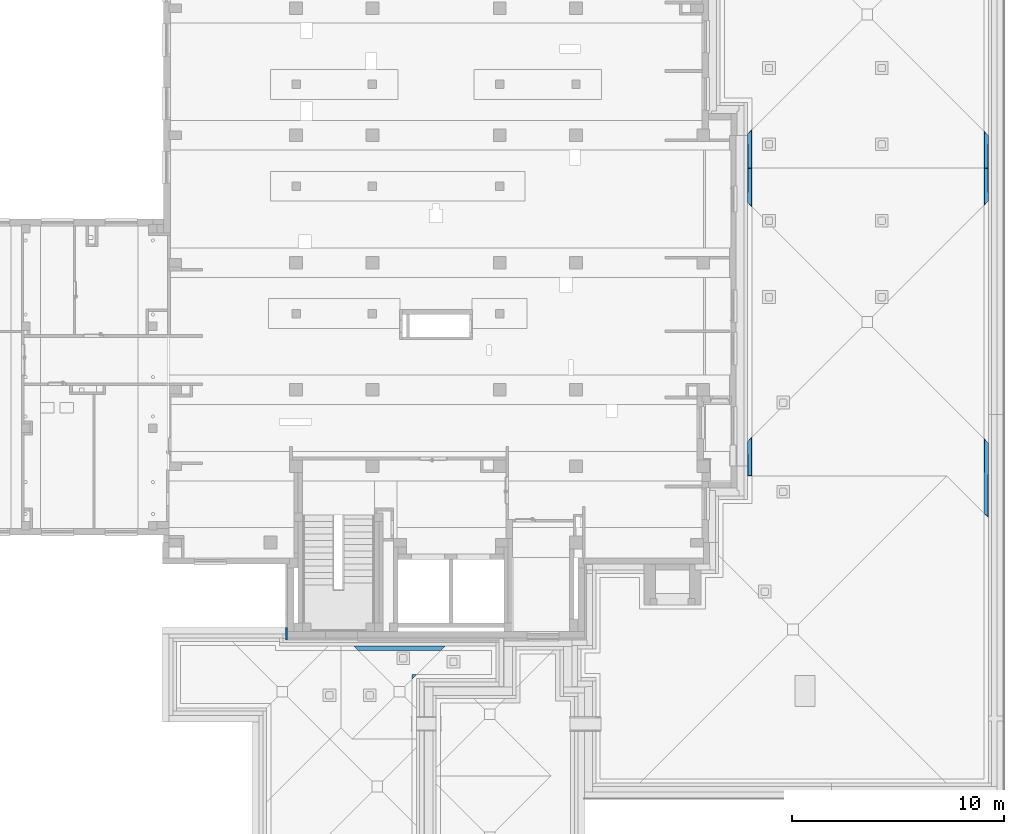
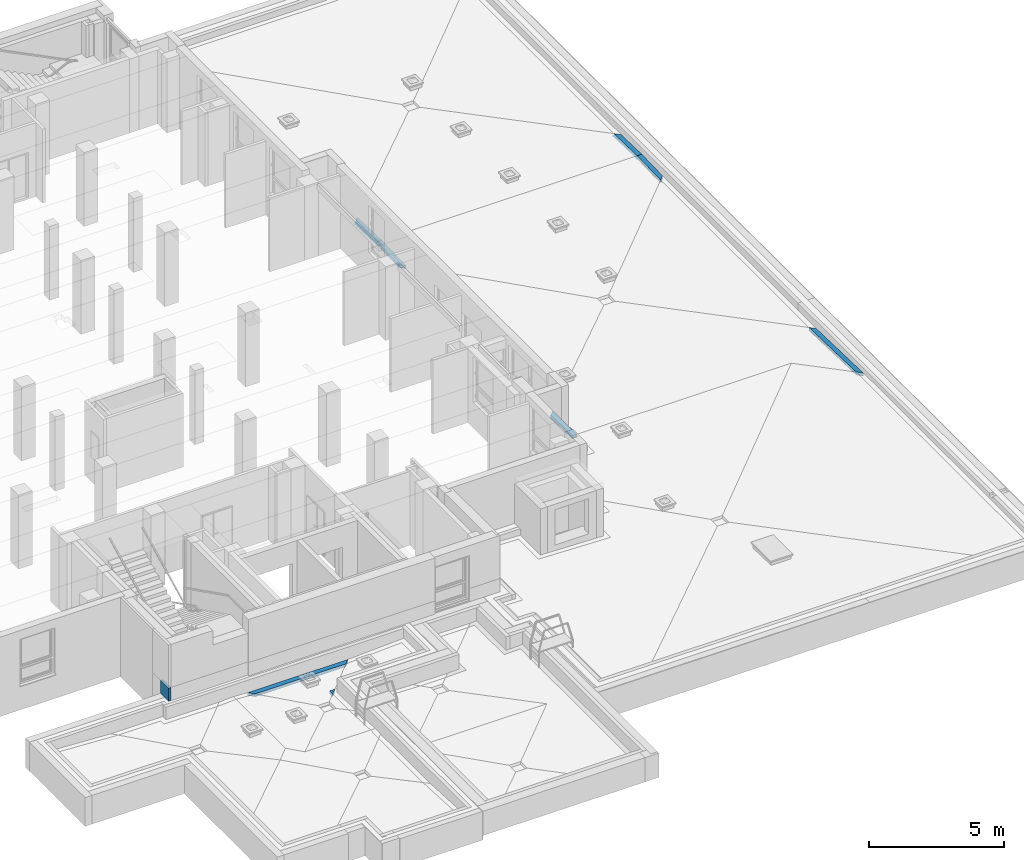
# One storey, part 32 of 50: 8 building element parts, 1 wall, 6 elements without a shape of their own.
"""IFC4 building model written with IfcOpenShell, lengths in metres."""

import ifcopenshell
import ifcopenshell.guid

model = None  # the IFC model being written
_history = None  # IfcOwnerHistory: only IFC2X3 demands one
_inside = {}  # id of a spatial element -> (the spatial element, [elements in it])
_under = {}  # id of a project, library or spatial element -> (it, [spatial elements below it])
_declared = {}  # id of a project -> (the project, [libraries it declares])
_typed = {}  # id of a type object -> (the type object, [elements of that type])
_made_of = {}  # id of a material, layer set ... -> (it, [elements and type objects made of it])


def new_model(schema):
    """Start an empty IFC model of exactly this schema.

    Asked for "IFC4X3", IfcOpenShell would pick the latest addendum, in which some entities
    have other attributes; the version numbers below select the first issue.
    IFC2X3 requires an IfcOwnerHistory on every rooted entity: one is made here for all.
    """
    global model, _history
    if schema == "IFC4X3":
        model = ifcopenshell.file(schema_version=(4, 3, 0, 0))
    else:
        model = ifcopenshell.file(schema=schema)
    _inside.clear()
    _under.clear()
    _declared.clear()
    _typed.clear()
    _made_of.clear()
    _history = None
    if model.schema == "IFC2X3":
        org = make("IfcOrganization", Name="unknown")
        user = make(
            "IfcPersonAndOrganization",
            ThePerson=make("IfcPerson", FamilyName="unknown"),
            TheOrganization=org,
        )
        app = make(
            "IfcApplication",
            ApplicationDeveloper=org,
            Version="unknown",
            ApplicationFullName="unknown",
            ApplicationIdentifier="unknown",
        )
        _history = make(
            "IfcOwnerHistory",
            OwningUser=user,
            OwningApplication=app,
            ChangeAction="ADDED",
            CreationDate=0,
        )
    return model


def make(cls, **values):
    """One entity of the class cls with the attributes given. An attribute that is None is left unset."""
    return model.create_entity(
        cls, **{name: value for name, value in values.items() if value is not None}
    )


def entity(cls, *values):
    """Any entity or typed value of the class cls, its attributes in the order of the schema. None: left unset."""
    e = model.create_entity(cls)
    for i, value in enumerate(values):
        if value is not None:
            e[i] = value
    return e


def rooted(cls, **values):
    """An entity with a GlobalId (a new one), such as an element, a storey or a relation."""
    return make(cls, GlobalId=ifcopenshell.guid.new(), OwnerHistory=_history, **values)


def si_unit(unit_type, name, prefix=None):
    """IfcSIUnit, for example si_unit("LENGTHUNIT", "METRE", prefix="MILLI")."""
    return make("IfcSIUnit", UnitType=unit_type, Prefix=prefix, Name=name)


def converted_unit(unit_type, name, factor, base, dimensions=None, offset=None):
    """IfcConversionBasedUnit, such as the inch: factor (a typed value) times the base unit."""
    return make(
        "IfcConversionBasedUnit"
        if offset is None
        else "IfcConversionBasedUnitWithOffset",
        ConversionOffset=offset,
        Dimensions=None
        if dimensions is None
        else entity("IfcDimensionalExponents", *dimensions),
        UnitType=unit_type,
        Name=name,
        ConversionFactor=make(
            "IfcMeasureWithUnit", ValueComponent=factor, UnitComponent=base
        ),
    )


def derived_unit(unit_type, elements):
    """IfcDerivedUnit: a product of units, each with its exponent."""
    return make(
        "IfcDerivedUnit",
        Elements=[
            make("IfcDerivedUnitElement", Unit=unit, Exponent=power)
            for unit, power in elements
        ],
        UnitType=unit_type,
    )


def assignment(units):
    """IfcUnitAssignment: the units of a project."""
    return None if units is None else make("IfcUnitAssignment", Units=units)


def point(xyz):
    """IfcCartesianPoint."""
    return None if xyz is None else make("IfcCartesianPoint", Coordinates=xyz)


def direction(xyz):
    """IfcDirection."""
    return None if xyz is None else make("IfcDirection", DirectionRatios=xyz)


def frame(location, z_axis=None, x_axis=None):
    """IfcAxis2Placement3D, a coordinate frame: its origin and axes. An axis left out is left unset."""
    return make(
        "IfcAxis2Placement3D",
        Location=point(location),
        Axis=direction(z_axis),
        RefDirection=direction(x_axis),
    )


def frame_2d(location, x_axis=None):
    """IfcAxis2Placement2D, a coordinate frame in the plane: its origin and x axis."""
    return make(
        "IfcAxis2Placement2D", Location=point(location), RefDirection=direction(x_axis)
    )


def origin():
    """The frame at (0, 0, 0) with its axes left unset."""
    return frame((0.0, 0.0, 0.0))


def origin_with_axes():
    """The frame at (0, 0, 0) with the z axis (0, 0, 1) and the x axis (1, 0, 0) written out."""
    return frame((0.0, 0.0, 0.0), z_axis=(0.0, 0.0, 1.0), x_axis=(1.0, 0.0, 0.0))


def place(relative_to, where):
    """IfcLocalPlacement: puts the frame where relative to a parent placement (None: the world)."""
    return make(
        "IfcLocalPlacement", PlacementRelTo=relative_to, RelativePlacement=where
    )


def context(
    kind, dimensions, precision=None, world=None, true_north=None, identifier=None
):
    """IfcGeometricRepresentationContext, for example the 3D "Model" context."""
    return make(
        "IfcGeometricRepresentationContext",
        ContextIdentifier=identifier,
        ContextType=kind,
        CoordinateSpaceDimension=dimensions,
        Precision=precision,
        WorldCoordinateSystem=world,
        TrueNorth=true_north,
    )


def subcontext(parent, identifier, kind, view, scale=None):
    """IfcGeometricRepresentationSubContext, for example "Body" below "Model"."""
    return make(
        "IfcGeometricRepresentationSubContext",
        ContextIdentifier=identifier,
        ContextType=kind,
        ParentContext=parent,
        TargetScale=scale,
        TargetView=view,
    )


def project(units=None, contexts=None):
    """IfcProject with its units and contexts."""
    return rooted(
        "IfcProject",
        Name="project",
        RepresentationContexts=contexts,
        UnitsInContext=assignment(units),
    )


def spatial(cls, under=None, at=None, **own):
    """A site, building, storey or space (cls), placed at a placement, below another one or the project."""
    s = rooted(cls, ObjectPlacement=at, **own)
    if under is not None:
        _under.setdefault(under.id(), (under, []))[1].append(s)
    return s


def profile(cls, at=None, kind="AREA", **sizes):
    """A parametric profile (cls). Its sizes go by their IFC names, for example OverallWidth=200.0."""
    return make(cls, ProfileType=kind, Position=at, **sizes)


def rectangle(**sizes):
    """IfcRectangleProfileDef."""
    return profile("IfcRectangleProfileDef", **sizes)


def extrude(swept, where, along, depth):
    """IfcExtrudedAreaSolid: the profile swept, set in the frame where, extruded along a direction by depth."""
    return make(
        "IfcExtrudedAreaSolid",
        SweptArea=swept,
        Position=where,
        ExtrudedDirection=direction(along),
        Depth=depth,
    )


def faces_of(points, faces, orient=None, outer=None):
    """IfcFace entities. A face is a list of loops; a loop is a list of indices into points, from 0.

    orient and outer hold one flag for each loop. By default every Orientation is true, the
    first loop of a face is its IfcFaceOuterBound and the others are IfcFaceBound.
    """
    made = []
    for i, loops in enumerate(faces):
        bounds = []
        for j, loop in enumerate(loops):
            is_outer = j == 0 if outer is None else outer[i][j]
            bounds.append(
                make(
                    "IfcFaceOuterBound" if is_outer else "IfcFaceBound",
                    Bound=make("IfcPolyLoop", Polygon=[points[k] for k in loop]),
                    Orientation=True if orient is None else orient[i][j],
                )
            )
        made.append(make("IfcFace", Bounds=bounds))
    return made


def faceted_brep(points, faces, orient=None, outer=None, voids=None):
    """IfcFacetedBrep: a solid bounded by flat faces; with voids (closed shells), ...WithVoids."""
    shared = [point(p) for p in points]
    hull = make("IfcClosedShell", CfsFaces=faces_of(shared, faces, orient, outer))
    if voids is None:
        return make("IfcFacetedBrep", Outer=hull)
    return make(
        "IfcFacetedBrepWithVoids",
        Outer=hull,
        Voids=[
            make(cls, CfsFaces=faces_of(shared, fs, o, b)) for cls, fs, o, b in voids
        ],
    )


def shape(context_of_items, identifier, shape_type, items):
    """IfcShapeRepresentation: the items that make up one representation, for example the "Body"."""
    return make(
        "IfcShapeRepresentation",
        ContextOfItems=context_of_items,
        RepresentationIdentifier=identifier,
        RepresentationType=shape_type,
        Items=items,
    )


def material(Name=None, Category=None):
    """IfcMaterial."""
    return make("IfcMaterial", Name=Name, Category=Category)


def layer(
    of_material, thickness, ventilated=None, Name=None, Category=None, Priority=None
):
    """IfcMaterialLayer: one layer of a wall or slab, of a material (None: an air gap)."""
    return make(
        "IfcMaterialLayer",
        Material=of_material,
        LayerThickness=thickness,
        IsVentilated=ventilated,
        Name=Name,
        Category=Category,
        Priority=Priority,
    )


def layer_set(layers, Name=None):
    """IfcMaterialLayerSet."""
    return make("IfcMaterialLayerSet", MaterialLayers=layers, LayerSetName=Name)


def layer_usage(for_layer_set, set_direction, sense, offset, extent=None):
    """IfcMaterialLayerSetUsage: how a layer set lies in its element."""
    return make(
        "IfcMaterialLayerSetUsage",
        ForLayerSet=for_layer_set,
        LayerSetDirection=set_direction,
        DirectionSense=sense,
        OffsetFromReferenceLine=offset,
        ReferenceExtent=extent,
    )


def made_of(thing, what):
    """Note that an element or type object is made of a material, layer set ...; save() writes the relation."""
    if what is not None:
        _made_of.setdefault(what.id(), (what, []))[1].append(thing)
    return thing


def element(
    cls,
    number,
    at=None,
    inside=None,
    cuts=None,
    type_object=None,
    material=None,
    context=None,
    identifier="Body",
    shape_type=None,
    held_by="IfcProductDefinitionShape",
    body=None,
    shapes=None,
    **own,
):
    """One element of the class cls, such as IfcWall. Its Tag is "e" and its number.

    at: its placement. inside: the storey or other place that contains it. cuts: it is an
    opening in that element (IfcRelVoidsElement). A single representation is given by context,
    identifier, shape_type and body (its items); several are given by shapes. held_by: the class
    of the entity that holds the representations. save() writes the other relations.
    """
    e = rooted(cls, Tag="e%d" % number, ObjectPlacement=at, **own)
    if body is not None:
        shapes = [shape(context, identifier, shape_type, body)]
    if shapes is not None:
        e.Representation = make(held_by, Representations=shapes)
    if inside is not None:
        _inside.setdefault(inside.id(), (inside, []))[1].append(e)
    if cuts is not None:
        rooted(
            "IfcRelVoidsElement", RelatingBuildingElement=cuts, RelatedOpeningElement=e
        )
    if type_object is not None:
        _typed.setdefault(type_object.id(), (type_object, []))[1].append(e)
    return made_of(e, material)


def aggregate(whole, parts):
    """IfcRelAggregates: a whole, such as a stair, and the parts it consists of."""
    return rooted("IfcRelAggregates", RelatingObject=whole, RelatedObjects=parts)


def save(model, path):
    """Write the relations noted so far, then the file.

    IfcRelAggregates (storeys below a building ...), IfcRelContainedInSpatialStructure (elements
    in a storey), IfcRelDefinesByType, IfcRelAssociatesMaterial and IfcRelDeclares: one each for
    every whole, place, type object, material and project.
    """
    for whole, parts in _under.values():
        aggregate(whole, parts)
    for where, things in _inside.values():
        rooted(
            "IfcRelContainedInSpatialStructure",
            RelatedElements=things,
            RelatingStructure=where,
        )
    for kind, things in _typed.values():
        rooted("IfcRelDefinesByType", RelatedObjects=things, RelatingType=kind)
    for what, things in _made_of.values():
        rooted("IfcRelAssociatesMaterial", RelatedObjects=things, RelatingMaterial=what)
    for by, libraries in _declared.values():
        rooted("IfcRelDeclares", RelatingContext=by, RelatedDefinitions=libraries)
    model.write(path)


model = new_model("IFC4")

# Units and contexts
model_context = context("Model", 3, precision=1e-05, world=origin())
body_context = subcontext(model_context, "Body", "Model", "MODEL_VIEW")
ifc_project = project(units=[si_unit("LENGTHUNIT", "METRE"), si_unit("AREAUNIT", "SQUARE_METRE"), si_unit("VOLUMEUNIT", "CUBIC_METRE"), si_unit("MASSUNIT", "GRAM", prefix="KILO"), converted_unit("PLANEANGLEUNIT", "DEGREE", entity("IfcPlaneAngleMeasure", 0.0174532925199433), si_unit("PLANEANGLEUNIT", "RADIAN"), dimensions=[0, 0, 0, 0, 0, 0, 0]), derived_unit("THERMALTRANSMITTANCEUNIT", [(si_unit("POWERUNIT", "WATT"), 1), (si_unit("THERMODYNAMICTEMPERATUREUNIT", "KELVIN"), -1), (si_unit("LENGTHUNIT", "METRE"), -2)]), derived_unit("VOLUMETRICFLOWRATEUNIT", [(si_unit("LENGTHUNIT", "METRE"), 3), (converted_unit("TIMEUNIT", "hour", entity("IfcTimeMeasure", 3600.0), si_unit("TIMEUNIT", "SECOND"), dimensions=[0, 0, 1, 0, 0, 0, 0]), -1), (si_unit("LENGTHUNIT", "METRE"), -1)])], contexts=[model_context])

# Site, building, storey
site_placement = place(None, origin())
site = spatial("IfcSite", under=ifc_project, at=site_placement, Name="3. ASŘ", CompositionType="ELEMENT")
building_placement = place(site_placement, origin())
building = spatial("IfcBuilding", under=site, at=building_placement, Name="Pavilon C", CompositionType="ELEMENT")
storey_placement = place(building_placement, frame((0.0, 0.0, 3.6)))
storey = spatial("IfcBuildingStorey", under=building, at=storey_placement, Name="Půdorys 2.NP", CompositionType="ELEMENT", Elevation=3.6)

# Wall
ifc_material_1 = material(Name="EPS")
ifc_layer = layer(ifc_material_1, 0.1)
ifc_layer_set = layer_set([ifc_layer])
ifc_layer_usage = layer_usage(ifc_layer_set, "AXIS2", "POSITIVE", 0.0)
wall_placement = place(storey_placement, frame((30.25, -4.0, 0.95), z_axis=(0.0, 0.0, 1.0), x_axis=(0.0, -1.0, 0.0)))
element("IfcWall", 1, at=wall_placement, inside=storey, material=ifc_layer_usage, Name="EPS", context=body_context, shape_type="SweptSolid", body=[
    extrude(rectangle(XDim=0.6, YDim=0.1, at=frame_2d((0.3, 0.05), x_axis=(1.0, 0.0))), origin_with_axes(), (0.0, 0.0, 1.0), 0.6),
])

# Roof, slab, building element parts
roof_1_placement = place(storey_placement, frame((0.0, 0.0, -3.6)))
roof_1 = element("IfcRoof", 2, at=roof_1_placement, inside=storey, PredefinedType="NOTDEFINED")
slab_1_placement = place(roof_1_placement, origin())
slab_1 = element("IfcSlab", 3, at=slab_1_placement, PredefinedType="ROOF")
aggregate(roof_1, [slab_1])
ifc_material_2 = material(Name="II.S2 - KAČÍREK")
building_element_part_1_placement = place(storey_placement, frame((0.0, 0.0, -3.6)))
building_element_part_1 = element("IfcBuildingElementPart", 4, at=building_element_part_1_placement, material=ifc_material_2, context=body_context, shape_type="Brep", body=[
    faceted_brep([(36.4400017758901, -6.22, 3.79936217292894), (36.22, -6.22, 3.79936217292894), (36.22, -6.44000177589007, 3.78783236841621), (37.7800017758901, -4.88, 3.86958859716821), (33.4799982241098, -4.88, 3.86958859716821), (33.6799982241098, -5.08, 3.85910704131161), (37.5800017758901, -5.08, 3.85910704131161), (36.4400017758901, -6.22, 3.91952685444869), (36.22, -6.44000177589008, 3.90799704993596), (36.22, -6.22, 3.91952685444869), (37.7800017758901, -4.88, 3.98975327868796), (37.5800017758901, -5.08, 3.97927172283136), (33.6799982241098, -5.08, 3.97927172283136), (33.4799982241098, -4.88, 3.98975327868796)], [[[0, 1, 2], [3, 4, 5, 6]], [[7, 8, 9], [10, 11, 12, 13]], [[10, 13, 4, 3]], [[13, 12, 5, 4]], [[12, 11, 6, 5]], [[11, 10, 3, 6]], [[7, 9, 1, 0]], [[9, 8, 2, 1]], [[8, 7, 0, 2]]], orient=[[False, False], [False, False], [False], [False], [False], [False], [False], [False], [False]], outer=[[True, True], [True, True], [True], [True], [True], [True], [True], [True], [True]]),
])
ifc_material_3 = material(Name="ASFALTOVÁ HYDROIZOLACE")
building_element_part_2_placement = place(storey_placement, frame((0.0, 0.0, -3.6)))
building_element_part_2 = element("IfcBuildingElementPart", 5, at=building_element_part_2_placement, material=ifc_material_3, context=body_context, shape_type="Brep", body=[
    faceted_brep([(36.4400017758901, -6.22, 3.78934844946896), (36.22, -6.22, 3.78934844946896), (36.22, -6.44000177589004, 3.77781864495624), (37.7800017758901, -4.88, 3.85957487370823), (33.4799982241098, -4.88, 3.85957487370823), (33.6799982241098, -5.08, 3.84909331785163), (37.5800017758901, -5.08, 3.84909331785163), (36.4400017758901, -6.22, 3.79936217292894), (36.22, -6.44000177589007, 3.78783236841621), (36.22, -6.22, 3.79936217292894), (37.7800017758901, -4.88, 3.86958859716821), (37.5800017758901, -5.08, 3.85910704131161), (33.6799982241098, -5.08, 3.85910704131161), (33.4799982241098, -4.88, 3.86958859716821)], [[[0, 1, 2], [3, 4, 5, 6]], [[7, 8, 9], [10, 11, 12, 13]], [[10, 13, 4, 3]], [[13, 12, 5, 4]], [[12, 11, 6, 5]], [[11, 10, 3, 6]], [[7, 9, 1, 0]], [[9, 8, 2, 1]], [[8, 7, 0, 2]]], orient=[[False, False], [False, False], [False], [False], [False], [False], [False], [False], [False]], outer=[[True, True], [True, True], [True], [True], [True], [True], [True], [True], [True]]),
])
aggregate(slab_1, [building_element_part_1, building_element_part_2])

# Roof, slabs, building element parts
roof_2_placement = place(storey_placement, frame((0.0, 0.0, -3.6)))
roof_2 = element("IfcRoof", 6, at=roof_2_placement, inside=storey, PredefinedType="NOTDEFINED")
slab_2_placement = place(roof_2_placement, origin())
slab_2 = element("IfcSlab", 7, at=slab_2_placement, PredefinedType="ROOF")
ifc_material_4 = material(Name="KAČÍREK")
building_element_part_3_placement = place(storey_placement, frame((0.0, 0.0, -3.6)))
building_element_part_3 = element("IfcBuildingElementPart", 8, at=building_element_part_3_placement, material=ifc_material_4, context=body_context, shape_type="Brep", body=[
    faceted_brep([(52.24, 17.6500000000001, 4.15000449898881), (52.24, 19.46, 4.09570449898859), (52.04, 19.26, 4.10170449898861), (52.04, 17.6500000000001, 4.15000449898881), (63.39, 17.6500000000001, 4.15000449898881), (63.39, 19.1899999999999, 4.10380449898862), (63.19, 19.3899999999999, 4.0978044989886), (63.19, 17.6500000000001, 4.15000449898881), (52.24, 17.6500000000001, 4.27005848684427), (52.04, 17.6500000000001, 4.27005848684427), (52.04, 19.26, 4.22175848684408), (52.24, 19.46, 4.21575848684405), (63.39, 17.6500000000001, 4.27005848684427), (63.19, 17.6500000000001, 4.27005848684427), (63.19, 19.39, 4.21785848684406), (63.39, 19.19, 4.22385848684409)], [[[0, 1, 2, 3], [4, 5, 6, 7]], [[8, 9, 10, 11], [12, 13, 14, 15]], [[12, 15, 5, 4]], [[15, 14, 6, 5]], [[14, 13, 7, 6]], [[13, 12, 4, 7]], [[8, 11, 1, 0]], [[11, 10, 2, 1]], [[10, 9, 3, 2]], [[9, 8, 0, 3]]], orient=[[False, False], [False, False], [False], [False], [False], [False], [False], [False], [False], [False]], outer=[[True, True], [True, True], [True], [True], [True], [True], [True], [True], [True], [True]]),
])
ifc_material_5 = material(Name="ASFALTOVÁ HYDROIZOLACE")
building_element_part_4_placement = place(storey_placement, frame((0.0, 0.0, -3.6)))
building_element_part_4 = element("IfcBuildingElementPart", 9, at=building_element_part_4_placement, material=ifc_material_5, context=body_context, shape_type="Brep", body=[
    faceted_brep([(52.24, 17.65, 4.14000000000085), (52.24, 19.4599999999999, 4.08570000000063), (52.04, 19.2599999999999, 4.09170000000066), (52.04, 17.65, 4.14000000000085), (63.39, 17.6500000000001, 4.14000000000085), (63.39, 19.1899999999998, 4.09380000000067), (63.19, 19.3899999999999, 4.08780000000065), (63.19, 17.6500000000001, 4.14000000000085), (52.24, 17.6500000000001, 4.15000449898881), (52.04, 17.6500000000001, 4.15000449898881), (52.04, 19.26, 4.10170449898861), (52.24, 19.46, 4.09570449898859), (63.39, 17.6500000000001, 4.15000449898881), (63.19, 17.6500000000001, 4.15000449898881), (63.19, 19.3899999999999, 4.0978044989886), (63.39, 19.1899999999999, 4.10380449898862)], [[[0, 1, 2, 3], [4, 5, 6, 7]], [[8, 9, 10, 11], [12, 13, 14, 15]], [[12, 15, 5, 4]], [[15, 14, 6, 5]], [[14, 13, 7, 6]], [[13, 12, 4, 7]], [[8, 11, 1, 0]], [[11, 10, 2, 1]], [[10, 9, 3, 2]], [[9, 8, 0, 3]]], orient=[[False, False], [False, False], [False], [False], [False], [False], [False], [False], [False], [False]], outer=[[True, True], [True, True], [True], [True], [True], [True], [True], [True], [True], [True]]),
])
aggregate(slab_2, [building_element_part_3, building_element_part_4])
slab_3_placement = place(roof_2_placement, origin())
slab_3 = element("IfcSlab", 10, at=slab_3_placement, PredefinedType="ROOF")
ifc_material_6 = material(Name="KAČÍREK")
building_element_part_5_placement = place(storey_placement, frame((0.0, 0.0, -3.6)))
building_element_part_5 = element("IfcBuildingElementPart", 11, at=building_element_part_5_placement, material=ifc_material_6, context=body_context, shape_type="Brep", body=[
    faceted_brep([(52.24, 3.15000000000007, 4.15000449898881), (52.24, 4.95999999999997, 4.09570449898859), (52.04, 4.75999999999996, 4.10170449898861), (52.04, 3.15000000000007, 4.15000449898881), (63.39, 1.19, 4.20880449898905), (63.39, 4.68999999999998, 4.10380449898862), (63.19, 4.88999999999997, 4.0978044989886), (63.19, 1.38999999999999, 4.20280449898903), (52.24, 3.15000000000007, 4.27005848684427), (52.04, 3.15000000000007, 4.27005848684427), (52.04, 4.75999999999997, 4.22175848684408), (52.24, 4.95999999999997, 4.21575848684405), (63.39, 1.19000000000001, 4.32885848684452), (63.19, 1.39, 4.32285848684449), (63.19, 4.88999999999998, 4.21785848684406), (63.39, 4.68999999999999, 4.22385848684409)], [[[0, 1, 2, 3], [4, 5, 6, 7]], [[8, 9, 10, 11], [12, 13, 14, 15]], [[12, 15, 5, 4]], [[15, 14, 6, 5]], [[14, 13, 7, 6]], [[13, 12, 4, 7]], [[8, 11, 1, 0]], [[11, 10, 2, 1]], [[10, 9, 3, 2]], [[9, 8, 0, 3]]], orient=[[False, False], [False, False], [False], [False], [False], [False], [False], [False], [False], [False]], outer=[[True, True], [True, True], [True], [True], [True], [True], [True], [True], [True], [True]]),
])
ifc_material_7 = material(Name="ASFALTOVÁ HYDROIZOLACE")
building_element_part_6_placement = place(storey_placement, frame((0.0, 0.0, -3.6)))
building_element_part_6 = element("IfcBuildingElementPart", 12, at=building_element_part_6_placement, material=ifc_material_7, context=body_context, shape_type="Brep", body=[
    faceted_brep([(52.24, 3.15000000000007, 4.14000000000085), (52.24, 4.95999999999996, 4.08570000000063), (52.04, 4.75999999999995, 4.09170000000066), (52.04, 3.15000000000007, 4.14000000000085), (63.39, 1.19, 4.19880000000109), (63.39, 4.69, 4.09380000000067), (63.19, 4.88999999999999, 4.08780000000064), (63.19, 1.38999999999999, 4.19280000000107), (52.24, 3.15000000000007, 4.15000449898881), (52.04, 3.15000000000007, 4.15000449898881), (52.04, 4.75999999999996, 4.10170449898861), (52.24, 4.95999999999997, 4.09570449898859), (63.39, 1.19, 4.20880449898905), (63.19, 1.38999999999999, 4.20280449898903), (63.19, 4.88999999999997, 4.0978044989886), (63.39, 4.68999999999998, 4.10380449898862)], [[[0, 1, 2, 3], [4, 5, 6, 7]], [[8, 9, 10, 11], [12, 13, 14, 15]], [[12, 15, 5, 4]], [[15, 14, 6, 5]], [[14, 13, 7, 6]], [[13, 12, 4, 7]], [[8, 11, 1, 0]], [[11, 10, 2, 1]], [[10, 9, 3, 2]], [[9, 8, 0, 3]]], orient=[[False, False], [False, False], [False], [False], [False], [False], [False], [False], [False], [False]], outer=[[True, True], [True, True], [True], [True], [True], [True], [True], [True], [True], [True]]),
])
aggregate(slab_3, [building_element_part_5, building_element_part_6])
slab_4_placement = place(roof_2_placement, origin())
slab_4 = element("IfcSlab", 13, at=slab_4_placement, PredefinedType="ROOF")
aggregate(roof_2, [slab_2, slab_3, slab_4])
ifc_material_8 = material(Name="KAČÍREK")
building_element_part_7_placement = place(storey_placement, frame((0.0, 0.0, -3.6)))
building_element_part_7 = element("IfcBuildingElementPart", 14, at=building_element_part_7_placement, material=ifc_material_8, context=body_context, shape_type="Brep", body=[
    faceted_brep([(52.24, 15.8400000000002, 4.09570449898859), (52.24, 17.6500000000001, 4.15000449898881), (52.04, 17.6500000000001, 4.15000449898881), (52.04, 16.0400000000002, 4.10170449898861), (63.39, 16.1100000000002, 4.10380449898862), (63.39, 17.6500000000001, 4.15000449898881), (63.19, 17.6500000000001, 4.15000449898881), (63.19, 15.9100000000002, 4.0978044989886), (52.24, 15.8400000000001, 4.21575848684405), (52.04, 16.0400000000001, 4.22175848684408), (52.04, 17.6500000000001, 4.27005848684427), (52.24, 17.6500000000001, 4.27005848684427), (63.39, 16.1100000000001, 4.22385848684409), (63.19, 15.9100000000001, 4.21785848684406), (63.19, 17.6500000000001, 4.27005848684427), (63.39, 17.6500000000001, 4.27005848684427)], [[[0, 1, 2, 3], [4, 5, 6, 7]], [[8, 9, 10, 11], [12, 13, 14, 15]], [[12, 15, 5, 4]], [[15, 14, 6, 5]], [[14, 13, 7, 6]], [[13, 12, 4, 7]], [[8, 11, 1, 0]], [[11, 10, 2, 1]], [[10, 9, 3, 2]], [[9, 8, 0, 3]]], orient=[[False, False], [False, False], [False], [False], [False], [False], [False], [False], [False], [False]], outer=[[True, True], [True, True], [True], [True], [True], [True], [True], [True], [True], [True]]),
])
ifc_material_9 = material(Name="ASFALTOVÁ HYDROIZOLACE")
building_element_part_8_placement = place(storey_placement, frame((0.0, 0.0, -3.6)))
building_element_part_8 = element("IfcBuildingElementPart", 15, at=building_element_part_8_placement, material=ifc_material_9, context=body_context, shape_type="Brep", body=[
    faceted_brep([(52.24, 15.8400000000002, 4.08570000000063), (52.24, 17.65, 4.14000000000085), (52.04, 17.65, 4.14000000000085), (52.04, 16.0400000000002, 4.09170000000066), (63.39, 16.1100000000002, 4.09380000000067), (63.39, 17.6500000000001, 4.14000000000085), (63.19, 17.6500000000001, 4.14000000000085), (63.19, 15.9100000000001, 4.08780000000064), (52.24, 15.8400000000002, 4.09570449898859), (52.04, 16.0400000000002, 4.10170449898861), (52.04, 17.6500000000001, 4.15000449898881), (52.24, 17.6500000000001, 4.15000449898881), (63.39, 16.1100000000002, 4.10380449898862), (63.19, 15.9100000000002, 4.0978044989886), (63.19, 17.6500000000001, 4.15000449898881), (63.39, 17.6500000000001, 4.15000449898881)], [[[0, 1, 2, 3], [4, 5, 6, 7]], [[8, 9, 10, 11], [12, 13, 14, 15]], [[12, 15, 5, 4]], [[15, 14, 6, 5]], [[14, 13, 7, 6]], [[13, 12, 4, 7]], [[8, 11, 1, 0]], [[11, 10, 2, 1]], [[10, 9, 3, 2]], [[9, 8, 0, 3]]], orient=[[False, False], [False, False], [False], [False], [False], [False], [False], [False], [False], [False]], outer=[[True, True], [True, True], [True], [True], [True], [True], [True], [True], [True], [True]]),
])
aggregate(slab_4, [building_element_part_7, building_element_part_8])

save(model, "model.ifc")
